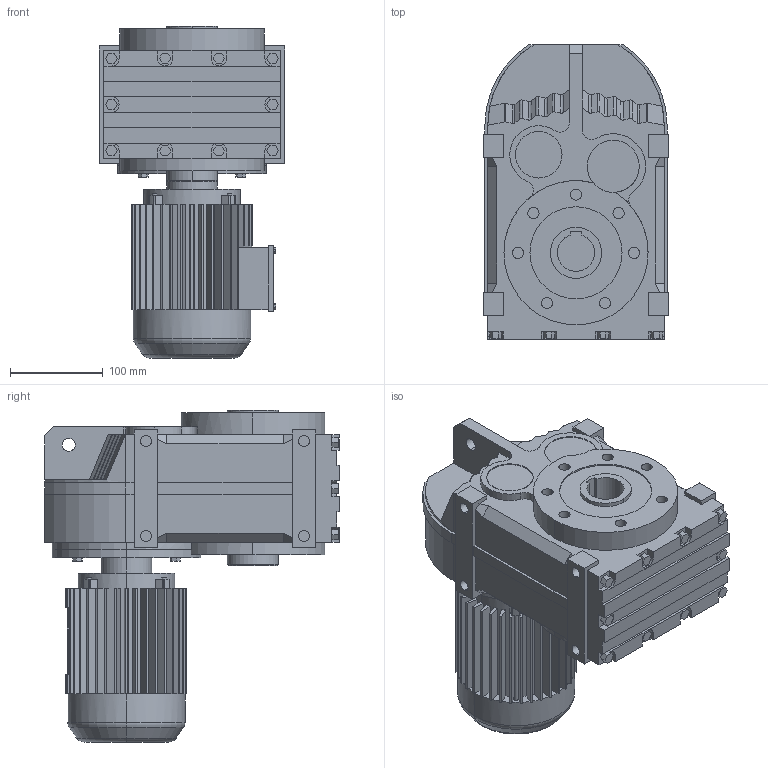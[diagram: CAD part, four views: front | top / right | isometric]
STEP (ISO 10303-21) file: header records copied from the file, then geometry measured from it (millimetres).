
FILE_DESCRIPTION(('Open CASCADE Model'),'2;1');
FILE_NAME('Open CASCADE Shape Model','2018-09-11T15:29:44',('Author'),( 'Open CASCADE'),'Open CASCADE STEP processor 6.3','Open CASCADE 6.3' ,'Unknown');
FILE_SCHEMA(('AUTOMOTIVE_DESIGN_CC2 { 1 2 10303 214 -1 1 5 4 }'));
Length unit declared in the file: millimetre
Products named in the file (4): 7_FA57-Y63S; FA27‵157_57.step; 萇儂_160.step; す瑩諾陑粣F_57.step
Assembly tree (3 placements, depth 2):
  7_FA57-Y63S
    FA27‵157_57.step
    萇儂_160.step
    す瑩諾陑粣F_57.step
Bounding box: 200 x 317 x 357 mm (x, y, z)
Volume: 9211133.7 mm3; surface area: 589348.9 mm2
Topology: 3 solids, 3 shells, 779 faces, 2063 edges, 1342 vertices
Faces by surface type: plane 566, cylinder 191, bspline 16, torus 4, cone 2
Entity records: 52103 total; most frequent: CARTESIAN_POINT 12425, DIRECTION 6965, ORIENTED_EDGE 4126, PCURVE 4126, DEFINITIONAL_REPRESENTATION 4126, LINE 3941, VECTOR 3941, EDGE_CURVE 2063
